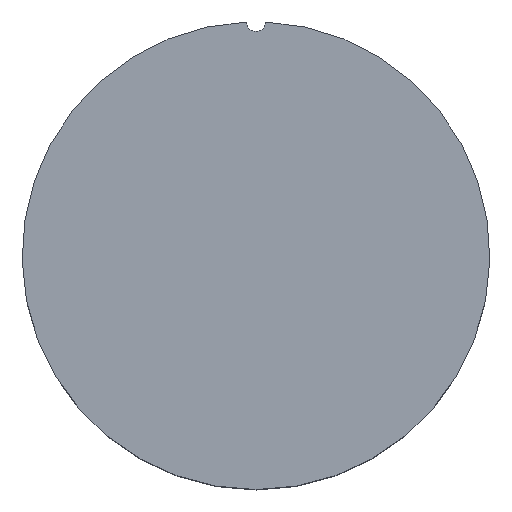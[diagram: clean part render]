
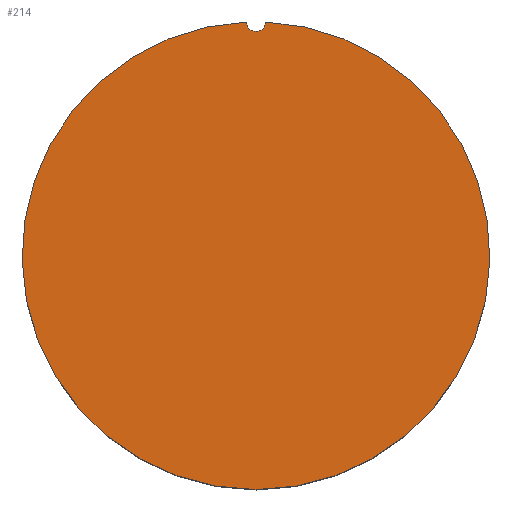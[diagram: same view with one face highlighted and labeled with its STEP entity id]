
A CAD part, top view. The second image highlights one B-rep face of the part: STEP entity #214.
In plain terms, the highlighted planar face has unit normal (0, 0, 1).
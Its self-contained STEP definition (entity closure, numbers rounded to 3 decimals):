
#22=PLANE('',#251);
#52=FACE_OUTER_BOUND('',#77,.T.);
#77=EDGE_LOOP('',(#174,#175));
#86=CIRCLE('',#220,1.5);
#103=CIRCLE('',#252,36.5);
#109=VERTEX_POINT('',#336);
#111=VERTEX_POINT('',#339);
#128=EDGE_CURVE('',#111,#109,#86,.T.);
#146=EDGE_CURVE('',#111,#109,#103,.T.);
#174=ORIENTED_EDGE('',*,*,#128,.T.);
#175=ORIENTED_EDGE('',*,*,#146,.F.);
#214=ADVANCED_FACE('',(#52),#22,.T.);
#220=AXIS2_PLACEMENT_3D('',#340,#261,#262);
#251=AXIS2_PLACEMENT_3D('',#387,#324,#325);
#252=AXIS2_PLACEMENT_3D('',#388,#326,#327);
#261=DIRECTION('center_axis',(0.,0.,-1.));
#262=DIRECTION('ref_axis',(1.,0.,0.));
#324=DIRECTION('center_axis',(0.,0.,1.));
#325=DIRECTION('ref_axis',(1.,0.,0.));
#326=DIRECTION('center_axis',(0.,0.,-1.));
#327=DIRECTION('ref_axis',(-1.,0.,0.));
#336=CARTESIAN_POINT('',(-1.5,36.469,39.));
#339=CARTESIAN_POINT('',(1.5,36.469,39.));
#340=CARTESIAN_POINT('Origin',(0.,36.5,39.));
#387=CARTESIAN_POINT('Origin',(0.,0.,
39.));
#388=CARTESIAN_POINT('Origin',(0.,0.,39.));
